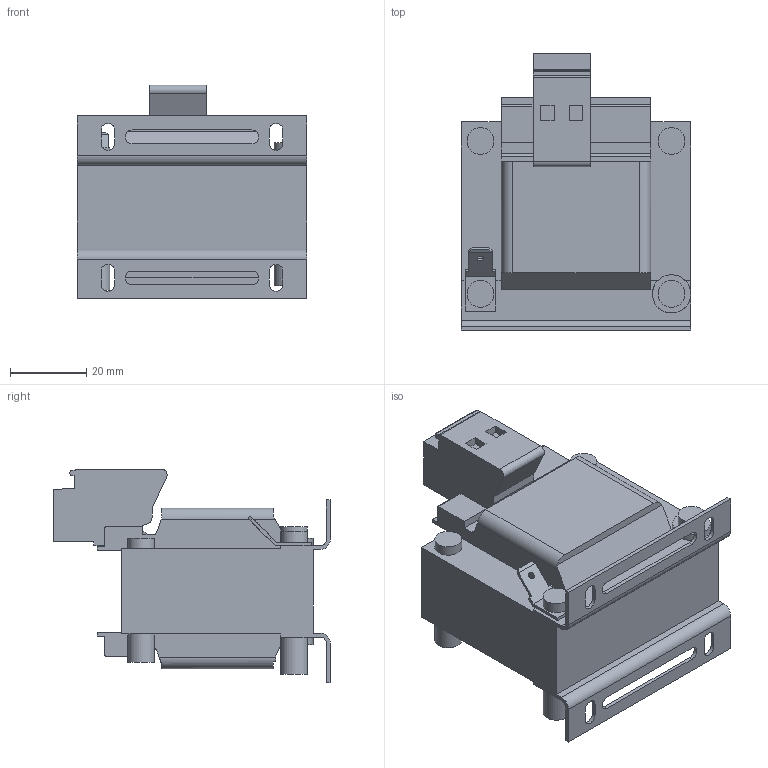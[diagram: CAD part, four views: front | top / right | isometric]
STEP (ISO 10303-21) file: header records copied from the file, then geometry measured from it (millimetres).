
FILE_DESCRIPTION (( 'STEP AP214' ), '1' );
FILE_NAME ('00Z1BX2-0005.STEP', '2022-06-09T08:24:31', ( '' ), ( '' ), 'SwSTEP 2.0', 'SolidWorks 2019', '' );
FILE_SCHEMA (( 'AUTOMOTIVE_DESIGN' ));
Length unit declared in the file: millimetre
Products named in the file (1): 00Z1BX2-0005
Bounding box: 60 x 72.35 x 55.95 mm (x, y, z)
Volume: 107888.7 mm3; surface area: 21493 mm2
Topology: 1 solids, 1 shells, 165 faces, 454 edges, 300 vertices
Faces by surface type: plane 123, cylinder 42
Full cylindrical faces by diameter (mm): 1.7 x1, 7 x8, 10 x2
Entity records: 5185 total; most frequent: CARTESIAN_POINT 919, ORIENTED_EDGE 878, DIRECTION 855, EDGE_CURVE 439, LINE 343, VECTOR 343, VERTEX_POINT 296, AXIS2_PLACEMENT_3D 256
